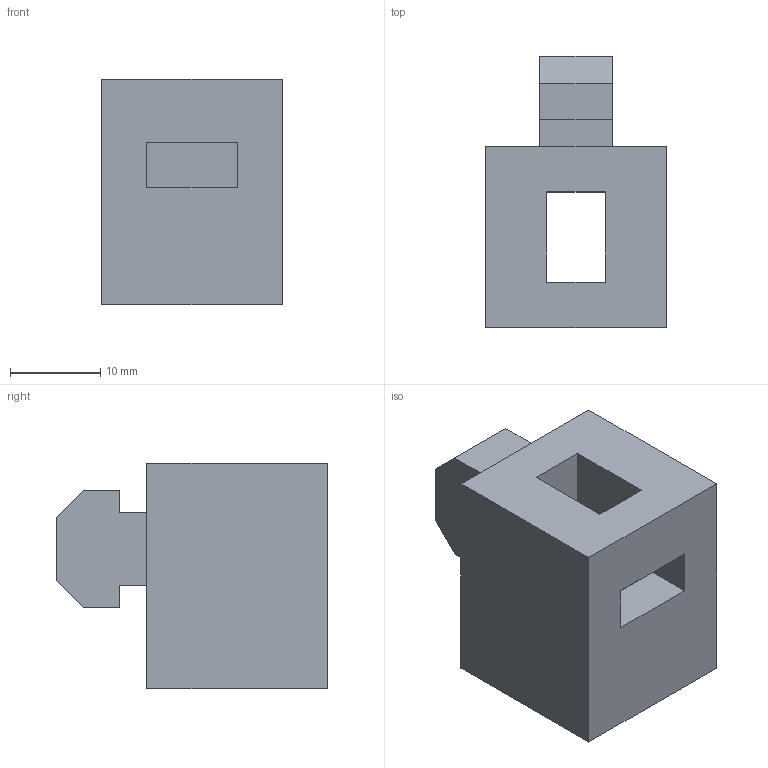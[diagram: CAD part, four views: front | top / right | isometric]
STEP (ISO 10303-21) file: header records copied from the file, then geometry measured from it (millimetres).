
FILE_DESCRIPTION (( 'STEP AP203' ), '1' );
FILE_NAME ('94-CE-PM-40G-A.STEP', '2015-07-09T08:34:43', ( '' ), ( '' ), 'SwSTEP 2.0', 'SolidWorks 2013', '' );
FILE_SCHEMA (( 'CONFIG_CONTROL_DESIGN' ));
Length unit declared in the file: millimetre
Products named in the file (1): 94-CE-PM-40G-A
Bounding box: 20 x 30 x 25 mm (x, y, z)
Volume: 8699.7 mm3; surface area: 4133.2 mm2
Topology: 1 solids, 1 shells, 30 faces, 78 edges, 52 vertices
Faces by surface type: plane 30
Entity records: 987 total; most frequent: CARTESIAN_POINT 161, ORIENTED_EDGE 156, DIRECTION 140, EDGE_CURVE 78, LINE 78, VECTOR 78, VERTEX_POINT 52, EDGE_LOOP 36
